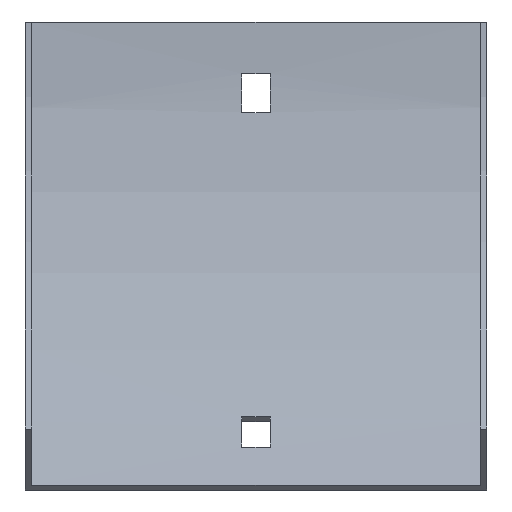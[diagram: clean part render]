
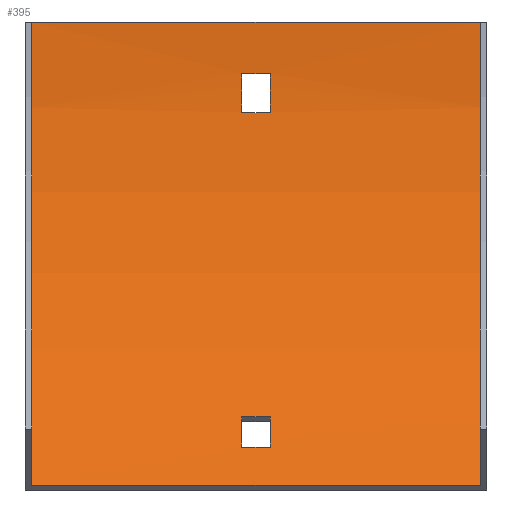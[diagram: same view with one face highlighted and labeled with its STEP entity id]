
A CAD part, front view. The second image highlights one B-rep face of the part: STEP entity #395.
In plain terms, the highlighted cylindrical face has radius 152 mm (diameter 304 mm), a partial arc.
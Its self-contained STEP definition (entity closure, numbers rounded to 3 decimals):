
#16 = CARTESIAN_POINT ( 'NONE',  ( 53.5, -1.974, -12. ) ) ;
#23 = AXIS2_PLACEMENT_3D ( 'NONE', #381, #605, #190 ) ;
#24 = DIRECTION ( 'NONE',  ( 1., 0., 0. ) ) ;
#31 = DIRECTION ( 'NONE',  ( 1., 0., 0. ) ) ;
#35 = ORIENTED_EDGE ( 'NONE', *, *, #67, .T. ) ;
#40 = FACE_OUTER_BOUND ( 'NONE', #248, .T. ) ;
#57 = ORIENTED_EDGE ( 'NONE', *, *, #561, .F. ) ;
#64 = CARTESIAN_POINT ( 'NONE',  ( 3.25, -1.974, -12. ) ) ;
#67 = EDGE_CURVE ( 'NONE', #550, #221, #82, .T. ) ;
#82 = CIRCLE ( 'NONE', #23, 152. ) ;
#85 = FACE_BOUND ( 'NONE', #177, .T. ) ;
#87 = EDGE_CURVE ( 'NONE', #591, #266, #135, .T. ) ;
#93 = DIRECTION ( 'NONE',  ( 0., 0., 1. ) ) ;
#94 = CARTESIAN_POINT ( 'NONE',  ( 53.5, -37.87, -98.659 ) ) ;
#96 = DIRECTION ( 'NONE',  ( -1., 0., 0. ) ) ;
#112 = DIRECTION ( 'NONE',  ( -1., 0., 0. ) ) ;
#114 = EDGE_CURVE ( 'NONE', #159, #582, #226, .T. ) ;
#119 = AXIS2_PLACEMENT_3D ( 'NONE', #125, #31, #446 ) ;
#123 = CARTESIAN_POINT ( 'NONE',  ( 3.25, -37.87, -98.659 ) ) ;
#124 = VECTOR ( 'NONE', #592, 1000. ) ;
#125 = CARTESIAN_POINT ( 'NONE',  ( -52., -153.5, 0. ) ) ;
#128 = EDGE_CURVE ( 'NONE', #155, #579, #196, .T. ) ;
#130 = AXIS2_PLACEMENT_3D ( 'NONE', #275, #604, #145 ) ;
#135 = LINE ( 'NONE', #323, #601 ) ;
#136 = EDGE_CURVE ( 'NONE', #205, #594, #280, .T. ) ;
#139 = FACE_BOUND ( 'NONE', #506, .T. ) ;
#145 = DIRECTION ( 'NONE',  ( 0., 0., 1. ) ) ;
#147 = DIRECTION ( 'NONE',  ( 0., 0., 1. ) ) ;
#155 = VERTEX_POINT ( 'NONE', #350 ) ;
#157 = ORIENTED_EDGE ( 'NONE', *, *, #87, .F. ) ;
#159 = VERTEX_POINT ( 'NONE', #385 ) ;
#162 = ORIENTED_EDGE ( 'NONE', *, *, #441, .T. ) ;
#177 = EDGE_LOOP ( 'NONE', ( #162, #35, #298, #570 ) ) ;
#183 = CARTESIAN_POINT ( 'NONE',  ( 52., -1.5, 0. ) ) ;
#190 = DIRECTION ( 'NONE',  ( 0., 0., -1. ) ) ;
#192 = CIRCLE ( 'NONE', #251, 152. ) ;
#196 = CIRCLE ( 'NONE', #553, 152. ) ;
#197 = VERTEX_POINT ( 'NONE', #64 ) ;
#198 = LINE ( 'NONE', #16, #495 ) ;
#202 = CIRCLE ( 'NONE', #285, 152. ) ;
#205 = VERTEX_POINT ( 'NONE', #299 ) ;
#217 = EDGE_CURVE ( 'NONE', #197, #478, #198, .T. ) ;
#221 = VERTEX_POINT ( 'NONE', #292 ) ;
#224 = VECTOR ( 'NONE', #430, 1000. ) ;
#226 = LINE ( 'NONE', #183, #341 ) ;
#232 = ORIENTED_EDGE ( 'NONE', *, *, #114, .T. ) ;
#245 = ORIENTED_EDGE ( 'NONE', *, *, #356, .F. ) ;
#248 = EDGE_LOOP ( 'NONE', ( #453, #157, #261, #232 ) ) ;
#251 = AXIS2_PLACEMENT_3D ( 'NONE', #429, #340, #147 ) ;
#261 = ORIENTED_EDGE ( 'NONE', *, *, #556, .T. ) ;
#266 = VERTEX_POINT ( 'NONE', #590 ) ;
#274 = VECTOR ( 'NONE', #96, 1000. ) ;
#275 = CARTESIAN_POINT ( 'NONE',  ( 53.5, -153.5, 0. ) ) ;
#280 = LINE ( 'NONE', #469, #224 ) ;
#285 = AXIS2_PLACEMENT_3D ( 'NONE', #498, #24, #584 ) ;
#290 = DIRECTION ( 'NONE',  ( 1., 0., 0. ) ) ;
#292 = CARTESIAN_POINT ( 'NONE',  ( -3.25, -32.201, -91.6 ) ) ;
#298 = ORIENTED_EDGE ( 'NONE', *, *, #335, .T. ) ;
#299 = CARTESIAN_POINT ( 'NONE',  ( -3.25, -2.958, -21. ) ) ;
#323 = CARTESIAN_POINT ( 'NONE',  ( 52., -46.02, -107.48 ) ) ;
#335 = EDGE_CURVE ( 'NONE', #221, #155, #408, .T. ) ;
#340 = DIRECTION ( 'NONE',  ( -1., 0., 0. ) ) ;
#341 = VECTOR ( 'NONE', #557, 1000. ) ;
#347 = EDGE_CURVE ( 'NONE', #266, #582, #548, .T. ) ;
#350 = CARTESIAN_POINT ( 'NONE',  ( 3.25, -32.201, -91.6 ) ) ;
#356 = EDGE_CURVE ( 'NONE', #594, #197, #202, .T. ) ;
#374 = CARTESIAN_POINT ( 'NONE',  ( 3.25, -153.5, 0. ) ) ;
#376 = LINE ( 'NONE', #94, #274 ) ;
#381 = CARTESIAN_POINT ( 'NONE',  ( -3.25, -153.5, 0. ) ) ;
#384 = CARTESIAN_POINT ( 'NONE',  ( 3.25, -2.958, -21. ) ) ;
#385 = CARTESIAN_POINT ( 'NONE',  ( 52., -1.5, 0. ) ) ;
#395 = ADVANCED_FACE ( 'NONE', ( #139, #40, #85 ), #418, .F. ) ;
#405 = ORIENTED_EDGE ( 'NONE', *, *, #217, .F. ) ;
#408 = LINE ( 'NONE', #595, #124 ) ;
#418 = CYLINDRICAL_SURFACE ( 'NONE', #130, 152. ) ;
#425 = DIRECTION ( 'NONE',  ( -1., 0., 0. ) ) ;
#429 = CARTESIAN_POINT ( 'NONE',  ( -3.25, -153.5, 0. ) ) ;
#430 = DIRECTION ( 'NONE',  ( 1., 0., 0. ) ) ;
#432 = AXIS2_PLACEMENT_3D ( 'NONE', #567, #290, #571 ) ;
#441 = EDGE_CURVE ( 'NONE', #579, #550, #376, .T. ) ;
#446 = DIRECTION ( 'NONE',  ( 0., 0., 1. ) ) ;
#449 = CARTESIAN_POINT ( 'NONE',  ( -52., -1.5, 0. ) ) ;
#453 = ORIENTED_EDGE ( 'NONE', *, *, #347, .F. ) ;
#457 = ORIENTED_EDGE ( 'NONE', *, *, #136, .F. ) ;
#469 = CARTESIAN_POINT ( 'NONE',  ( 53.5, -2.958, -21. ) ) ;
#471 = CARTESIAN_POINT ( 'NONE',  ( -3.25, -1.974, -12. ) ) ;
#478 = VERTEX_POINT ( 'NONE', #471 ) ;
#479 = CARTESIAN_POINT ( 'NONE',  ( 52., -46.02, -107.48 ) ) ;
#495 = VECTOR ( 'NONE', #112, 1000. ) ;
#498 = CARTESIAN_POINT ( 'NONE',  ( 3.25, -153.5, 0. ) ) ;
#506 = EDGE_LOOP ( 'NONE', ( #57, #405, #245, #457 ) ) ;
#520 = CIRCLE ( 'NONE', #432, 152. ) ;
#526 = CARTESIAN_POINT ( 'NONE',  ( -3.25, -37.87, -98.659 ) ) ;
#548 = CIRCLE ( 'NONE', #119, 152. ) ;
#550 = VERTEX_POINT ( 'NONE', #526 ) ;
#553 = AXIS2_PLACEMENT_3D ( 'NONE', #374, #559, #93 ) ;
#556 = EDGE_CURVE ( 'NONE', #591, #159, #520, .T. ) ;
#557 = DIRECTION ( 'NONE',  ( -1., 0., 0. ) ) ;
#559 = DIRECTION ( 'NONE',  ( -1., 0., 0. ) ) ;
#561 = EDGE_CURVE ( 'NONE', #478, #205, #192, .T. ) ;
#567 = CARTESIAN_POINT ( 'NONE',  ( 52., -153.5, 0. ) ) ;
#570 = ORIENTED_EDGE ( 'NONE', *, *, #128, .T. ) ;
#571 = DIRECTION ( 'NONE',  ( 0., 0., 1. ) ) ;
#579 = VERTEX_POINT ( 'NONE', #123 ) ;
#582 = VERTEX_POINT ( 'NONE', #449 ) ;
#584 = DIRECTION ( 'NONE',  ( 0., 0., -1. ) ) ;
#590 = CARTESIAN_POINT ( 'NONE',  ( -52., -46.02, -107.48 ) ) ;
#591 = VERTEX_POINT ( 'NONE', #479 ) ;
#592 = DIRECTION ( 'NONE',  ( 1., 0., 0. ) ) ;
#594 = VERTEX_POINT ( 'NONE', #384 ) ;
#595 = CARTESIAN_POINT ( 'NONE',  ( 53.5, -32.201, -91.6 ) ) ;
#601 = VECTOR ( 'NONE', #425, 1000. ) ;
#604 = DIRECTION ( 'NONE',  ( -1., 0., 0. ) ) ;
#605 = DIRECTION ( 'NONE',  ( 1., 0., 0. ) ) ;
